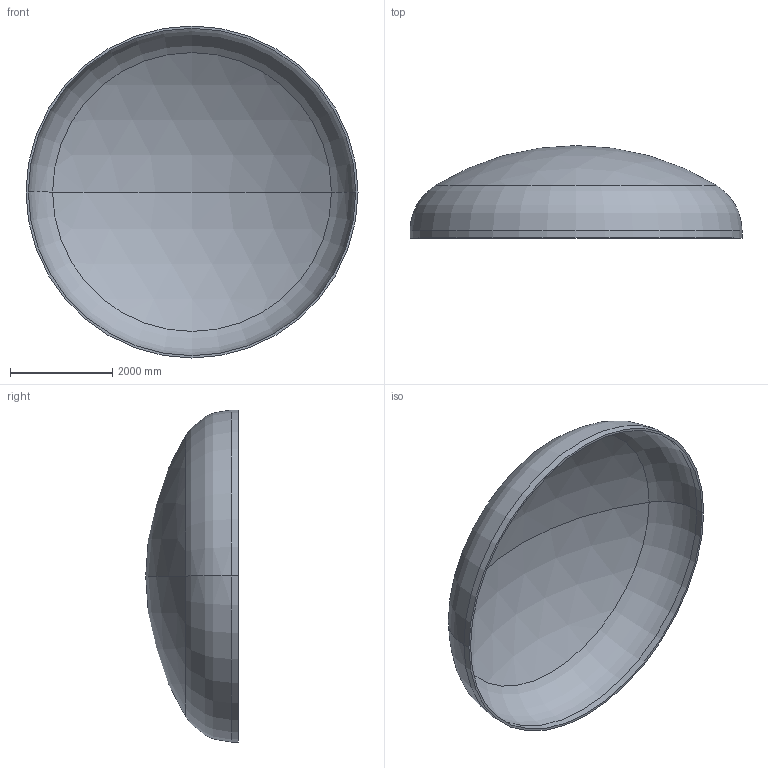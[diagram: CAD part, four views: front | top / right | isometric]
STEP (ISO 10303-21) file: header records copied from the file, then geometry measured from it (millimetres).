
FILE_DESCRIPTION (( 'STEP AP203' ), '1' );
FILE_NAME ('DIN 28013 Korbbogenform_-_Boden DIN 28013 - 6500 x 140 - I - s=45.step', '2016-07-04T10:42:06', ( '' ), ( '' ), 'SwSTEP 2.0', 'SolidWorks 2013', '' );
FILE_SCHEMA (( 'CONFIG_CONTROL_DESIGN' ));
Length unit declared in the file: millimetre
Products named in the file (1): DIN 28013 Korbbogenform_-_Boden DIN 28013 - 6500 x 140 - I - s=45
Bounding box: 6500 x 1810.37 x 6500 mm (x, y, z)
Volume: 2176654195.5 mm3; surface area: 97656944.5 mm2
Topology: 1 solids, 1 shells, 13 faces, 24 edges, 14 vertices
Faces by surface type: torus 4, cylinder 4, sphere 4, plane 1
Entity records: 407 total; most frequent: DIRECTION 72, CARTESIAN_POINT 52, ORIENTED_EDGE 48, AXIS2_PLACEMENT_3D 34, EDGE_CURVE 24, CIRCLE 20, EDGE_LOOP 14, VERTEX_POINT 14
